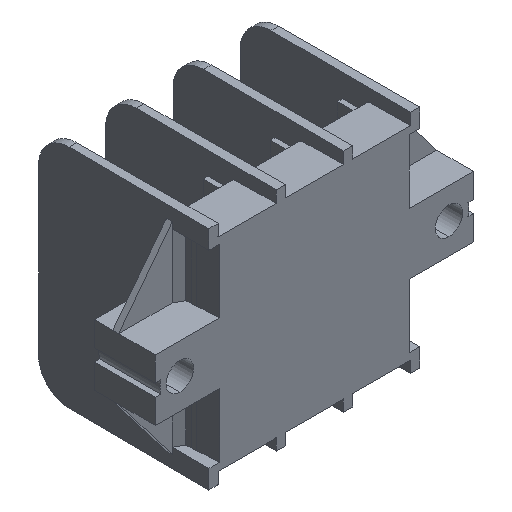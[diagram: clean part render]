
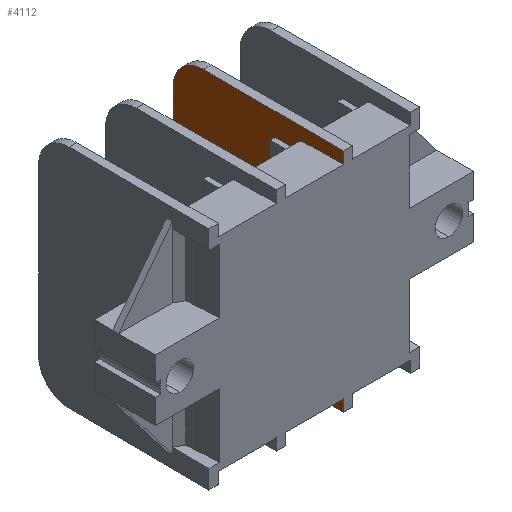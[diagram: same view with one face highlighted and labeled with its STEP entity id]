
A CAD part, isometric view. The second image highlights one B-rep face of the part: STEP entity #4112.
In plain terms, the highlighted planar face has unit normal (-1, 0.005, 0).
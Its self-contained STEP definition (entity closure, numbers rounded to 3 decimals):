
#144 = VECTOR ( 'NONE', #23403, 1000. ) ;
#302 = CARTESIAN_POINT ( 'NONE',  ( -6.25, -10., -16.603 ) ) ;
#384 = CARTESIAN_POINT ( 'NONE',  ( -6.128, 13., -18.5 ) ) ;
#415 = EDGE_CURVE ( 'NONE', #12627, #27854, #25399, .T. ) ;
#619 = VERTEX_POINT ( 'NONE', #27505 ) ;
#838 = EDGE_CURVE ( 'NONE', #9250, #3568, #19655, .T. ) ;
#884 = CARTESIAN_POINT ( 'NONE',  ( -6.25, -10., 0. ) ) ;
#1318 = VERTEX_POINT ( 'NONE', #23265 ) ;
#1575 = LINE ( 'NONE', #884, #14012 ) ;
#2580 = VECTOR ( 'NONE', #11379, 1000. ) ;
#2740 = DIRECTION ( 'NONE',  ( 0.005, 1., 0.022 ) ) ;
#2901 = EDGE_CURVE ( 'NONE', #12627, #16229, #6586, .T. ) ;
#3568 = VERTEX_POINT ( 'NONE', #11397 ) ;
#3777 = LINE ( 'NONE', #27352, #12828 ) ;
#3945 = ORIENTED_EDGE ( 'NONE', *, *, #838, .T. ) ;
#3975 = EDGE_CURVE ( 'NONE', #619, #16882, #1575, .T. ) ;
#4035 = AXIS2_PLACEMENT_3D ( 'NONE', #5337, #5612, #12153 ) ;
#4112 = ADVANCED_FACE ( 'NONE', ( #20034 ), #5706, .T. ) ;
#4426 = CARTESIAN_POINT ( 'NONE',  ( -6.25, -10., 16.603 ) ) ;
#5026 = CARTESIAN_POINT ( 'NONE',  ( -6.213, -3., 0. ) ) ;
#5337 = CARTESIAN_POINT ( 'NONE',  ( -6.25, -10., 0. ) ) ;
#5612 = DIRECTION ( 'NONE',  ( -1., 0.005, 0. ) ) ;
#5706 = PLANE ( 'NONE',  #4035 ) ;
#5910 = ORIENTED_EDGE ( 'NONE', *, *, #3975, .F. ) ;
#6099 = LINE ( 'NONE', #302, #23842 ) ;
#6264 = ORIENTED_EDGE ( 'NONE', *, *, #15772, .T. ) ;
#6512 = ORIENTED_EDGE ( 'NONE', *, *, #13985, .T. ) ;
#6513 = CARTESIAN_POINT ( 'NONE',  ( -6.101, 18., 13.5 ) ) ;
#6586 = LINE ( 'NONE', #10475, #144 ) ;
#6692 = VECTOR ( 'NONE', #8410, 1000. ) ;
#7001 = DIRECTION ( 'NONE',  ( 0., 0., 1. ) ) ;
#7961 = ORIENTED_EDGE ( 'NONE', *, *, #415, .T. ) ;
#8410 = DIRECTION ( 'NONE',  ( 0., 0., -1. ) ) ;
#8520 = EDGE_CURVE ( 'NONE', #22221, #1318, #14406, .T. ) ;
#8915 = CARTESIAN_POINT ( 'NONE',  ( -6.128, 13., -18.5 ) ) ;
#9250 = VERTEX_POINT ( 'NONE', #18455 ) ;
#10475 = CARTESIAN_POINT ( 'NONE',  ( -6.25, -10., 0. ) ) ;
#10855 = ORIENTED_EDGE ( 'NONE', *, *, #8520, .T. ) ;
#10873 = ORIENTED_EDGE ( 'NONE', *, *, #21625, .T. ) ;
#10895 = CARTESIAN_POINT ( 'NONE',  ( -6.101, 18., 16.429 ) ) ;
#11097 = CARTESIAN_POINT ( 'NONE',  ( -6.25, -10., 18.5 ) ) ;
#11379 = DIRECTION ( 'NONE',  ( 0.005, 1., 0. ) ) ;
#11397 = CARTESIAN_POINT ( 'NONE',  ( -6.213, -3., 16.45 ) ) ;
#12153 = DIRECTION ( 'NONE',  ( -0.005, -1., 0. ) ) ;
#12618 = VECTOR ( 'NONE', #7001, 1000. ) ;
#12627 = VERTEX_POINT ( 'NONE', #13990 ) ;
#12828 = VECTOR ( 'NONE', #21364, 1000. ) ;
#13985 = EDGE_CURVE ( 'NONE', #27854, #22221, #18281, .T. ) ;
#13990 = CARTESIAN_POINT ( 'NONE',  ( -6.25, -10., 18.5 ) ) ;
#14012 = VECTOR ( 'NONE', #17978, 1000. ) ;
#14406 = LINE ( 'NONE', #20527, #6692 ) ;
#15048 = CARTESIAN_POINT ( 'NONE',  ( -6.112, 15.929, 18.5 ) ) ;
#15169 = VERTEX_POINT ( 'NONE', #8915 ) ;
#15244 = CARTESIAN_POINT ( 'NONE',  ( -6.101, 18., -16.429 ) ) ;
#15614 = CARTESIAN_POINT ( 'NONE',  ( -6.112, 15.929, -18.5 ) ) ;
#15772 = EDGE_CURVE ( 'NONE', #619, #9250, #6099, .T. ) ;
#15847 = CARTESIAN_POINT ( 'NONE',  ( -6.128, 13., 18.5 ) ) ;
#15925 = ORIENTED_EDGE ( 'NONE', *, *, #23223, .T. ) ;
#16229 = VERTEX_POINT ( 'NONE', #4426 ) ;
#16882 = VERTEX_POINT ( 'NONE', #26775 ) ;
#17003 = CARTESIAN_POINT ( 'NONE',  ( -6.128, 13., 18.5 ) ) ;
#17799 = CARTESIAN_POINT ( 'NONE',  ( -6.25, -10., -18.5 ) ) ;
#17978 = DIRECTION ( 'NONE',  ( 0., 0., -1. ) ) ;
#18281 =( BOUNDED_CURVE ( )  B_SPLINE_CURVE ( 3, ( #17003, #15048, #10895, #6513 ),
 .UNSPECIFIED., .F., .T. ) 
 B_SPLINE_CURVE_WITH_KNOTS ( ( 4, 4 ),
 ( 4.712, 6.283 ),
 .UNSPECIFIED. ) 
 CURVE ( )  GEOMETRIC_REPRESENTATION_ITEM ( )  RATIONAL_B_SPLINE_CURVE ( ( 1., 0.805, 0.805, 1. ) ) 
 REPRESENTATION_ITEM ( '' )  );
#18455 = CARTESIAN_POINT ( 'NONE',  ( -6.213, -3., -16.45 ) ) ;
#18755 = VECTOR ( 'NONE', #22194, 1000. ) ;
#19655 = LINE ( 'NONE', #5026, #12618 ) ;
#20034 = FACE_OUTER_BOUND ( 'NONE', #21598, .T. ) ;
#20352 = CARTESIAN_POINT ( 'NONE',  ( -6.101, 18., 13.5 ) ) ;
#20527 = CARTESIAN_POINT ( 'NONE',  ( -6.101, 18., 0. ) ) ;
#21217 =( BOUNDED_CURVE ( )  B_SPLINE_CURVE ( 3, ( #26170, #15244, #15614, #384 ),
 .UNSPECIFIED., .F., .F. ) 
 B_SPLINE_CURVE_WITH_KNOTS ( ( 4, 4 ),
 ( 3.142, 4.712 ),
 .UNSPECIFIED. ) 
 CURVE ( )  GEOMETRIC_REPRESENTATION_ITEM ( )  RATIONAL_B_SPLINE_CURVE ( ( 1., 0.805, 0.805, 1. ) ) 
 REPRESENTATION_ITEM ( '' )  );
#21364 = DIRECTION ( 'NONE',  ( 0.005, 1., -0.022 ) ) ;
#21598 = EDGE_LOOP ( 'NONE', ( #6264, #3945, #25105, #23214, #7961, #6512, #10855, #15925, #10873, #5910 ) ) ;
#21625 = EDGE_CURVE ( 'NONE', #15169, #16882, #27778, .T. ) ;
#22194 = DIRECTION ( 'NONE',  ( -0.005, -1., 0. ) ) ;
#22221 = VERTEX_POINT ( 'NONE', #20352 ) ;
#23214 = ORIENTED_EDGE ( 'NONE', *, *, #2901, .F. ) ;
#23223 = EDGE_CURVE ( 'NONE', #1318, #15169, #21217, .T. ) ;
#23265 = CARTESIAN_POINT ( 'NONE',  ( -6.101, 18., -13.5 ) ) ;
#23403 = DIRECTION ( 'NONE',  ( 0., 0., -1. ) ) ;
#23842 = VECTOR ( 'NONE', #2740, 1000. ) ;
#25105 = ORIENTED_EDGE ( 'NONE', *, *, #27608, .F. ) ;
#25399 = LINE ( 'NONE', #11097, #2580 ) ;
#26170 = CARTESIAN_POINT ( 'NONE',  ( -6.101, 18., -13.5 ) ) ;
#26775 = CARTESIAN_POINT ( 'NONE',  ( -6.25, -10., -18.5 ) ) ;
#27352 = CARTESIAN_POINT ( 'NONE',  ( -6.25, -10., 16.603 ) ) ;
#27505 = CARTESIAN_POINT ( 'NONE',  ( -6.25, -10., -16.603 ) ) ;
#27608 = EDGE_CURVE ( 'NONE', #16229, #3568, #3777, .T. ) ;
#27778 = LINE ( 'NONE', #17799, #18755 ) ;
#27854 = VERTEX_POINT ( 'NONE', #15847 ) ;
